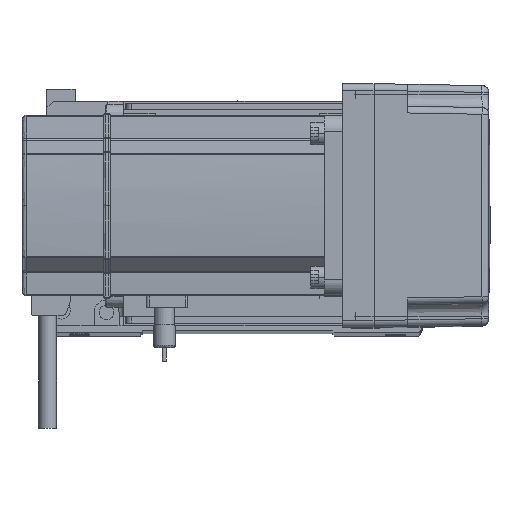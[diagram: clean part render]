
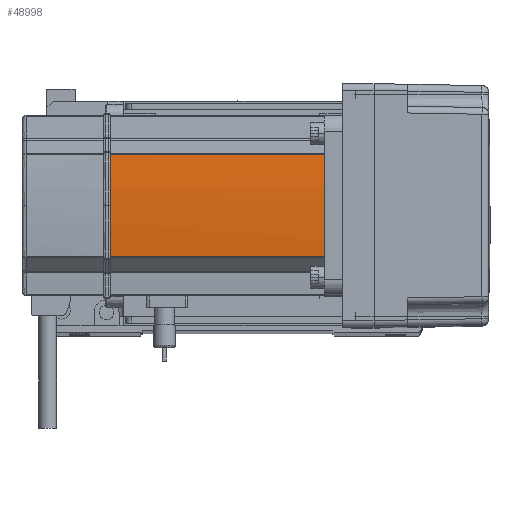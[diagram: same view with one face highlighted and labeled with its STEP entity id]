
A CAD part, top view. The second image highlights one B-rep face of the part: STEP entity #48998.
In plain terms, the highlighted cylindrical face has radius 270 mm (diameter 540 mm), a partial arc.
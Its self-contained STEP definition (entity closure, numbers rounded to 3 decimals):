
#1992 = ORIENTED_EDGE ( 'NONE', *, *, #22696, .T. ) ;
#2177 = DIRECTION ( 'NONE',  ( 0., 0., 1. ) ) ;
#2183 = CARTESIAN_POINT ( 'NONE',  ( -39.042, -22.724, 0. ) ) ;
#2679 = DIRECTION ( 'NONE',  ( 1., 0., 0. ) ) ;
#3658 = VECTOR ( 'NONE', #19925, 1000. ) ;
#4344 = DIRECTION ( 'NONE',  ( 0., 0., -1. ) ) ;
#4531 = CARTESIAN_POINT ( 'NONE',  ( 230., 0., 134. ) ) ;
#6525 = DIRECTION ( 'NONE',  ( 0., 0., -1. ) ) ;
#6576 = EDGE_CURVE ( 'NONE', #14424, #16404, #47773, .T. ) ;
#11009 = CARTESIAN_POINT ( 'NONE',  ( 230., 0., 39. ) ) ;
#12123 = VERTEX_POINT ( 'NONE', #50153 ) ;
#14424 = VERTEX_POINT ( 'NONE', #54013 ) ;
#14677 = ORIENTED_EDGE ( 'NONE', *, *, #49028, .F. ) ;
#15785 = CARTESIAN_POINT ( 'NONE',  ( 230., 0., 134. ) ) ;
#16404 = VERTEX_POINT ( 'NONE', #55559 ) ;
#19010 = CIRCLE ( 'NONE', #31536, 270. ) ;
#19526 = LINE ( 'NONE', #2183, #3658 ) ;
#19533 = CARTESIAN_POINT ( 'NONE',  ( 230., 0., 0. ) ) ;
#19925 = DIRECTION ( 'NONE',  ( 0., 0., 1. ) ) ;
#20038 = CYLINDRICAL_SURFACE ( 'NONE', #33609, 270. ) ;
#21646 = ORIENTED_EDGE ( 'NONE', *, *, #37620, .T. ) ;
#22696 = EDGE_CURVE ( 'NONE', #51198, #12123, #19010, .T. ) ;
#26516 = EDGE_LOOP ( 'NONE', ( #1992, #38013, #35754, #14677, #21646 ) ) ;
#26905 = CARTESIAN_POINT ( 'NONE',  ( -39.042, -22.724, 39. ) ) ;
#31536 = AXIS2_PLACEMENT_3D ( 'NONE', #4531, #4344, #35491 ) ;
#33609 = AXIS2_PLACEMENT_3D ( 'NONE', #19533, #2177, #55075 ) ;
#33980 = VECTOR ( 'NONE', #50832, 1000. ) ;
#35491 = DIRECTION ( 'NONE',  ( 1., 0., 0. ) ) ;
#35754 = ORIENTED_EDGE ( 'NONE', *, *, #6576, .T. ) ;
#36710 = CIRCLE ( 'NONE', #57255, 270. ) ;
#37331 = CIRCLE ( 'NONE', #38759, 270. ) ;
#37620 = EDGE_CURVE ( 'NONE', #55608, #51198, #19526, .T. ) ;
#38013 = ORIENTED_EDGE ( 'NONE', *, *, #49590, .T. ) ;
#38759 = AXIS2_PLACEMENT_3D ( 'NONE', #15785, #6525, #2679 ) ;
#41761 = CARTESIAN_POINT ( 'NONE',  ( -39.042, 22.724, 0. ) ) ;
#44251 = FACE_OUTER_BOUND ( 'NONE', #26516, .T. ) ;
#47773 = LINE ( 'NONE', #41761, #33980 ) ;
#48998 = ADVANCED_FACE ( 'NONE', ( #44251 ), #20038, .T. ) ;
#49028 = EDGE_CURVE ( 'NONE', #55608, #16404, #36710, .T. ) ;
#49590 = EDGE_CURVE ( 'NONE', #12123, #14424, #37331, .T. ) ;
#50153 = CARTESIAN_POINT ( 'NONE',  ( -40., 0., 134. ) ) ;
#50479 = DIRECTION ( 'NONE',  ( 0., 0., -1. ) ) ;
#50671 = DIRECTION ( 'NONE',  ( 1., 0., 0. ) ) ;
#50832 = DIRECTION ( 'NONE',  ( 0., 0., -1. ) ) ;
#51198 = VERTEX_POINT ( 'NONE', #53211 ) ;
#53211 = CARTESIAN_POINT ( 'NONE',  ( -39.042, -22.724, 134. ) ) ;
#54013 = CARTESIAN_POINT ( 'NONE',  ( -39.042, 22.724, 134. ) ) ;
#55075 = DIRECTION ( 'NONE',  ( 1., 0., 0. ) ) ;
#55559 = CARTESIAN_POINT ( 'NONE',  ( -39.042, 22.724, 39. ) ) ;
#55608 = VERTEX_POINT ( 'NONE', #26905 ) ;
#57255 = AXIS2_PLACEMENT_3D ( 'NONE', #11009, #50479, #50671 ) ;
